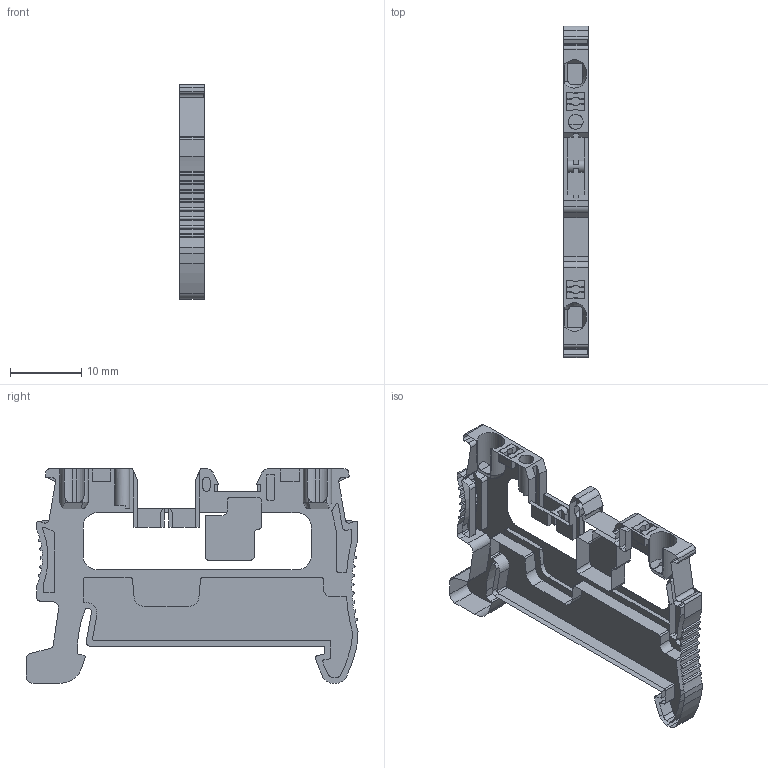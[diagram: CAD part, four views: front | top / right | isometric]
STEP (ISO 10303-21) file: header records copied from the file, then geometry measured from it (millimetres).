
FILE_DESCRIPTION(('Open CASCADE Model'),'2;1');
FILE_NAME('Open CASCADE Shape Model','2024-05-15T09:57:24',('Author'),( 'Open CASCADE'),'Open CASCADE STEP processor 6.5','Open CASCADE 6.5' ,'Unknown');
FILE_SCHEMA(('AUTOMOTIVE_DESIGN { 1 0 10303 214 1 1 1 1 }'));
Length unit declared in the file: millimetre
Products named in the file (459): CADSOFTTOOLS 1; CADSOFTTOOLS 1.1; CADSOFTTOOLS 1.2; CADSOFTTOOLS 1.3; CADSOFTTOOLS 1.4; CADSOFTTOOLS 1.5; CADSOFTTOOLS 1.6; CADSOFTTOOLS 1.7; CADSOFTTOOLS 1.8; CADSOFTTOOLS 1.9; CADSOFTTOOLS 1.10; CADSOFTTOOLS 1.11; CADSOFTTOOLS 1.12; CADSOFTTOOLS 1.13; CADSOFTTOOLS 1.14; CADSOFTTOOLS 1.15; CADSOFTTOOLS 1.16; CADSOFTTOOLS 1.17; CADSOFTTOOLS 1.18; CADSOFTTOOLS 1.19; CADSOFTTOOLS 1.20; CADSOFTTOOLS 1.21; CADSOFTTOOLS 1.22; CADSOFTTOOLS 1.23; CADSOFTTOOLS 1.24; CADSOFTTOOLS 1.25; CADSOFTTOOLS 1.26; CADSOFTTOOLS 1.27; CADSOFTTOOLS 1.28; CADSOFTTOOLS 1.29; CADSOFTTOOLS 1.30; CADSOFTTOOLS 1.31; CADSOFTTOOLS 1.32; CADSOFTTOOLS 1.33; CADSOFTTOOLS 1.34; CADSOFTTOOLS 1.35; CADSOFTTOOLS 1.36; CADSOFTTOOLS 1.37; CADSOFTTOOLS 1.38; CADSOFTTOOLS 1.39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
Assembly tree (458 placements, depth 2):
  CADSOFTTOOLS 1
    CADSOFTTOOLS 1.1
    CADSOFTTOOLS 1.2
    CADSOFTTOOLS 1.3
    CADSOFTTOOLS 1.4
    CADSOFTTOOLS 1.5
    CADSOFTTOOLS 1.6
    CADSOFTTOOLS 1.7
    CADSOFTTOOLS 1.8
    CADSOFTTOOLS 1.9
    CADSOFTTOOLS 1.10
    CADSOFTTOOLS 1.11
    CADSOFTTOOLS 1.12
    CADSOFTTOOLS 1.13
    CADSOFTTOOLS 1.14
    CADSOFTTOOLS 1.15
    CADSOFTTOOLS 1.16
    CADSOFTTOOLS 1.17
    CADSOFTTOOLS 1.18
    CADSOFTTOOLS 1.19
    CADSOFTTOOLS 1.20
    CADSOFTTOOLS 1.21
    CADSOFTTOOLS 1.22
    CADSOFTTOOLS 1.23
    CADSOFTTOOLS 1.24
    CADSOFTTOOLS 1.25
    CADSOFTTOOLS 1.26
    CADSOFTTOOLS 1.27
    CADSOFTTOOLS 1.28
    CADSOFTTOOLS 1.29
    CADSOFTTOOLS 1.30
    CADSOFTTOOLS 1.31
    CADSOFTTOOLS 1.32
    CADSOFTTOOLS 1.33
    CADSOFTTOOLS 1.34
    CADSOFTTOOLS 1.35
    CADSOFTTOOLS 1.36
    CADSOFTTOOLS 1.37
    CADSOFTTOOLS 1.38
    CADSOFTTOOLS 1.39
    CADSOFTTOOLS 1.40
    CADSOFTTOOLS 1.41
    CADSOFTTOOLS 1.42
    CADSOFTTOOLS 1.43
    CADSOFTTOOLS 1.44
    CADSOFTTOOLS 1.45
    CADSOFTTOOLS 1.46
    CADSOFTTOOLS 1.47
    CADSOFTTOOLS 1.48
    CADSOFTTOOLS 1.49
    CADSOFTTOOLS 1.50
    CADSOFTTOOLS 1.51
    CADSOFTTOOLS 1.52
    CADSOFTTOOLS 1.53
    CADSOFTTOOLS 1.54
    CADSOFTTOOLS 1.55
    CADSOFTTOOLS 1.56
    CADSOFTTOOLS 1.57
    CADSOFTTOOLS 1.58
    CADSOFTTOOLS 1.59
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Bounding box: 3.5 x 46.55 x 30.05 mm (x, y, z)
Surface area: 2657.7 mm2 (no closed solid volume)
Topology: 0 solids, 458 shells, 458 faces, 2367 edges, 2366 vertices
Faces by surface type: plane 288, cylinder 168, cone 2
Full cylindrical faces by diameter (mm): 2.1 x1
Entity records: 51464 total; most frequent: CARTESIAN_POINT 12515, DIRECTION 6219, LINE 3092, VECTOR 3092, ORIENTED_EDGE 2368, PCURVE 2368, DEFINITIONAL_REPRESENTATION 2368, EDGE_CURVE 2367
